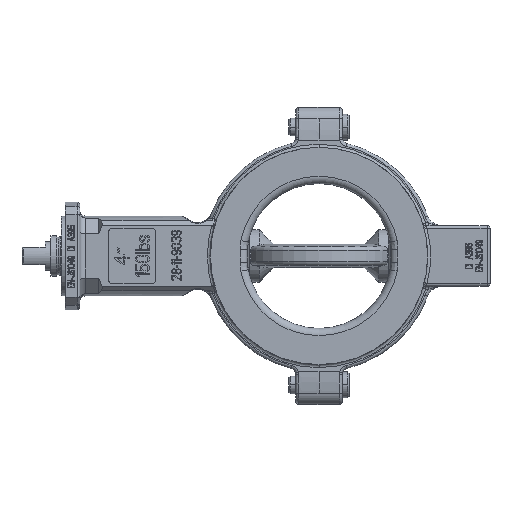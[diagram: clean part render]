
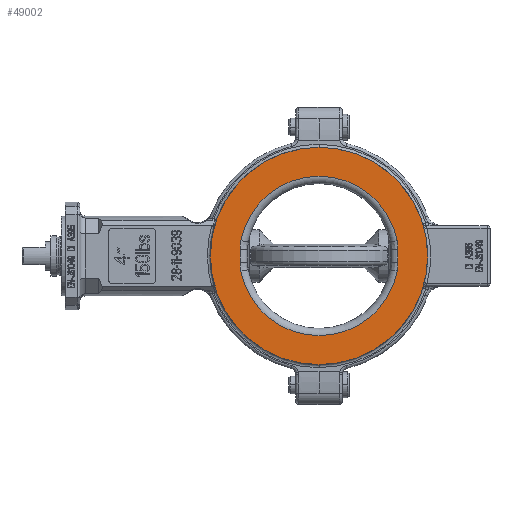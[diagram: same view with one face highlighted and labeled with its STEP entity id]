
A CAD part, top view. The second image highlights one B-rep face of the part: STEP entity #49002.
In plain terms, the highlighted planar face has unit normal (0, 0, 1).
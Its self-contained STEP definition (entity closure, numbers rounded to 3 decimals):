
#1481=CARTESIAN_POINT('',(0.,0.,26.));
#1482=DIRECTION('',(0.,0.,1.));
#1483=DIRECTION('',(0.,1.,0.));
#1484=AXIS2_PLACEMENT_3D('',#1481,#1482,#1483);
#2507=CARTESIAN_POINT('',(0.,0.,26.));
#2508=DIRECTION('',(0.,0.,-1.));
#2509=DIRECTION('',(0.,1.,0.));
#2510=AXIS2_PLACEMENT_3D('',#2507,#2508,#2509);
#2512=CARTESIAN_POINT('',(0.,0.,26.));
#2513=DIRECTION('',(0.,0.,-1.));
#2514=DIRECTION('',(-0.981,0.192,0.));
#2515=AXIS2_PLACEMENT_3D('',#2512,#2513,#2514);
#2522=CARTESIAN_POINT('',(53.977,10.559,26.));
#2523=CARTESIAN_POINT('',(54.088,9.992,26.));
#2524=CARTESIAN_POINT('',(54.283,8.776,26.));
#2525=CARTESIAN_POINT('',(54.463,6.706,26.));
#2526=CARTESIAN_POINT('',(54.496,5.15,26.));
#2527=CARTESIAN_POINT('',(54.496,4.329,26.));
#2542=DIRECTION('',(0.,-1.,0.));
#2543=VECTOR('',#2542,8.658);
#2544=CARTESIAN_POINT('',(54.496,4.329,26.));
#2545=LINE('',#2544,#2543);
#2555=CARTESIAN_POINT('',(54.496,-4.329,26.));
#2556=CARTESIAN_POINT('',(54.496,-5.151,26.));
#2557=CARTESIAN_POINT('',(54.462,-6.709,26.));
#2558=CARTESIAN_POINT('',(54.283,-8.777,26.));
#2559=CARTESIAN_POINT('',(54.088,-9.992,26.));
#2560=CARTESIAN_POINT('',(53.977,-10.559,26.));
#2585=CARTESIAN_POINT('',(0.,0.,26.));
#2586=DIRECTION('',(0.,0.,-1.));
#2587=DIRECTION('',(0.981,-0.192,0.));
#2588=AXIS2_PLACEMENT_3D('',#2585,#2586,#2587);
#3100=CARTESIAN_POINT('',(-54.496,-4.329,
26.));
#3101=CARTESIAN_POINT('',(-54.496,-5.151,
26.));
#3102=CARTESIAN_POINT('',(-54.462,-6.709,
26.));
#3103=CARTESIAN_POINT('',(-54.283,-8.777,
26.));
#3104=CARTESIAN_POINT('',(-54.088,-9.992,
26.));
#3105=CARTESIAN_POINT('',(-53.977,-10.559,
26.));
#3120=DIRECTION('',(0.,-1.,0.));
#3121=VECTOR('',#3120,8.658);
#3122=CARTESIAN_POINT('',(-54.496,4.329,26.));
#3123=LINE('',#3122,#3121);
#3133=CARTESIAN_POINT('',(-53.977,10.559,26.));
#3134=CARTESIAN_POINT('',(-54.088,9.992,26.));
#3135=CARTESIAN_POINT('',(-54.283,8.776,26.));
#3136=CARTESIAN_POINT('',(-54.463,6.706,26.));
#3137=CARTESIAN_POINT('',(-54.496,5.15,26.));
#3138=CARTESIAN_POINT('',(-54.496,4.329,26.));
#36106=CARTESIAN_POINT('',(0.,75.,26.));
#36107=CARTESIAN_POINT('',(0.,-75.,26.));
#36108=VERTEX_POINT('',#36106);
#36109=VERTEX_POINT('',#36107);
#36126=VERTEX_POINT('',#2522);
#36127=VERTEX_POINT('',#2527);
#36130=CARTESIAN_POINT('',(54.496,-4.329,
26.));
#36131=VERTEX_POINT('',#36130);
#36134=VERTEX_POINT('',#2560);
#36147=VERTEX_POINT('',#3133);
#36148=VERTEX_POINT('',#3138);
#36151=CARTESIAN_POINT('',(-54.496,-4.329,
26.));
#36152=VERTEX_POINT('',#36151);
#36155=VERTEX_POINT('',#3105);
#48975=CARTESIAN_POINT('',(0.,0.,26.));
#48976=DIRECTION('',(0.,0.,-1.));
#48977=DIRECTION('',(0.,1.,0.));
#48978=AXIS2_PLACEMENT_3D('',#48975,#48976,#48977);
#48979=PLANE('',#48978);
#48980=ORIENTED_EDGE('',*,*,#48970,.T.);
#48981=ORIENTED_EDGE('',*,*,#47372,.F.);
#48982=EDGE_LOOP('',(#48980,#48981));
#48983=FACE_OUTER_BOUND('',#48982,.F.);
#48985=ORIENTED_EDGE('',*,*,#48984,.F.);
#48987=ORIENTED_EDGE('',*,*,#48986,.T.);
#48989=ORIENTED_EDGE('',*,*,#48988,.T.);
#48991=ORIENTED_EDGE('',*,*,#48990,.T.);
#48993=ORIENTED_EDGE('',*,*,#48992,.F.);
#48995=ORIENTED_EDGE('',*,*,#48994,.F.);
#48997=ORIENTED_EDGE('',*,*,#48996,.F.);
#48999=ORIENTED_EDGE('',*,*,#48998,.F.);
#49000=EDGE_LOOP('',(#48985,#48987,#48989,#48991,#48993,#48995,#48997,#48999));
#49001=FACE_BOUND('',#49000,.F.);
#49002=ADVANCED_FACE('',(#48983,#49001),#48979,.F.);
#1485=CIRCLE('',#1484,75.);
#2511=CIRCLE('',#2510,75.);
#2516=CIRCLE('',#2515,55.);
#2528=B_SPLINE_CURVE_WITH_KNOTS('',3,(#2522,#2523,#2524,#2525,#2526,#2527),
.UNSPECIFIED.,.F.,.F.,(4,1,1,4),(0.,0.333,0.667,1.),
.UNSPECIFIED.);
#2561=B_SPLINE_CURVE_WITH_KNOTS('',3,(#2555,#2556,#2557,#2558,#2559,#2560),
.UNSPECIFIED.,.F.,.F.,(4,1,1,4),(0.,0.333,0.667,1.),
.UNSPECIFIED.);
#2589=CIRCLE('',#2588,55.);
#3106=B_SPLINE_CURVE_WITH_KNOTS('',3,(#3100,#3101,#3102,#3103,#3104,#3105),
.UNSPECIFIED.,.F.,.F.,(4,1,1,4),(0.,0.333,0.667,1.),
.UNSPECIFIED.);
#3139=B_SPLINE_CURVE_WITH_KNOTS('',3,(#3133,#3134,#3135,#3136,#3137,#3138),
.UNSPECIFIED.,.F.,.F.,(4,1,1,4),(0.,0.333,0.667,1.),
.UNSPECIFIED.);
#47372=EDGE_CURVE('',#36108,#36109,#1485,.T.);
#48970=EDGE_CURVE('',#36108,#36109,#2511,.T.);
#48984=EDGE_CURVE('',#36147,#36126,#2516,.T.);
#48986=EDGE_CURVE('',#36147,#36148,#3139,.T.);
#48988=EDGE_CURVE('',#36148,#36152,#3123,.T.);
#48990=EDGE_CURVE('',#36152,#36155,#3106,.T.);
#48992=EDGE_CURVE('',#36134,#36155,#2589,.T.);
#48994=EDGE_CURVE('',#36131,#36134,#2561,.T.);
#48996=EDGE_CURVE('',#36127,#36131,#2545,.T.);
#48998=EDGE_CURVE('',#36126,#36127,#2528,.T.);
